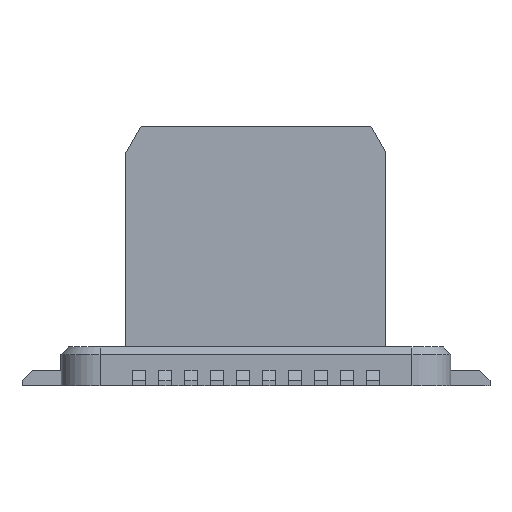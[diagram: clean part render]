
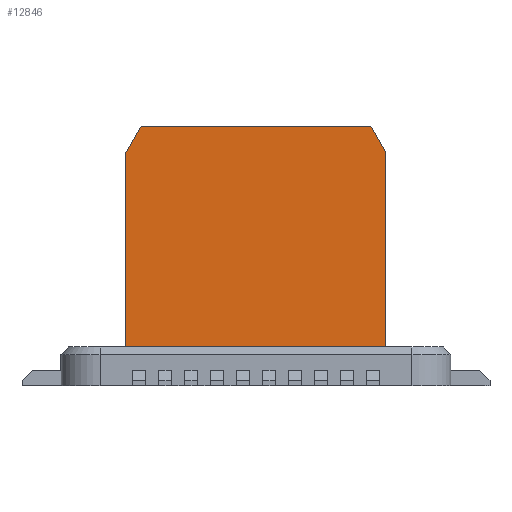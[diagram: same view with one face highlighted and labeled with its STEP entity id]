
A CAD part, front view. The second image highlights one B-rep face of the part: STEP entity #12846.
In plain terms, the highlighted planar face has unit normal (0, -1, 0).
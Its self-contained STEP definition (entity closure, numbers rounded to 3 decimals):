
#473 = CARTESIAN_POINT ( 'NONE',  ( -10., 0., 8. ) ) ;
#486 = VERTEX_POINT ( 'NONE', #13814 ) ;
#972 = LINE ( 'NONE', #4520, #4162 ) ;
#1019 = CARTESIAN_POINT ( 'NONE',  ( -8.845, 0., 10. ) ) ;
#1273 = DIRECTION ( 'NONE',  ( 1., 0., 0. ) ) ;
#1537 = EDGE_CURVE ( 'NONE', #486, #6597, #2746, .T. ) ;
#1863 = DIRECTION ( 'NONE',  ( 0., 1., 0. ) ) ;
#1965 = CARTESIAN_POINT ( 'NONE',  ( 10., 0., 8. ) ) ;
#2138 = CARTESIAN_POINT ( 'NONE',  ( 8.845, 0., -10. ) ) ;
#2301 = VERTEX_POINT ( 'NONE', #473 ) ;
#2563 = EDGE_CURVE ( 'NONE', #10400, #8318, #7851, .T. ) ;
#2746 = LINE ( 'NONE', #7551, #14128 ) ;
#3200 = CARTESIAN_POINT ( 'NONE',  ( 10., 0., 8. ) ) ;
#3270 = LINE ( 'NONE', #6890, #14477 ) ;
#3648 = VECTOR ( 'NONE', #1273, 1000. ) ;
#4141 = DIRECTION ( 'NONE',  ( -1., 0., 0. ) ) ;
#4162 = VECTOR ( 'NONE', #7906, 1000. ) ;
#4227 = ORIENTED_EDGE ( 'NONE', *, *, #2563, .T. ) ;
#4520 = CARTESIAN_POINT ( 'NONE',  ( 10., 0., -10. ) ) ;
#4537 = VECTOR ( 'NONE', #10342, 1000. ) ;
#4558 = EDGE_CURVE ( 'NONE', #12987, #8318, #8458, .T. ) ;
#4650 = CARTESIAN_POINT ( 'NONE',  ( -8.845, 0., -10. ) ) ;
#4998 = VECTOR ( 'NONE', #10265, 1000. ) ;
#5058 = CARTESIAN_POINT ( 'NONE',  ( -10., 0., 10. ) ) ;
#5542 = DIRECTION ( 'NONE',  ( 0.5, 0., -0.866 ) ) ;
#5822 = DIRECTION ( 'NONE',  ( -0.5, 0., -0.866 ) ) ;
#6215 = CARTESIAN_POINT ( 'NONE',  ( 8.845, 0., 10. ) ) ;
#6396 = CARTESIAN_POINT ( 'NONE',  ( 10., 0., -8. ) ) ;
#6524 = ORIENTED_EDGE ( 'NONE', *, *, #1537, .F. ) ;
#6597 = VERTEX_POINT ( 'NONE', #4650 ) ;
#6890 = CARTESIAN_POINT ( 'NONE',  ( -10., 0., -8. ) ) ;
#7551 = CARTESIAN_POINT ( 'NONE',  ( -10., 0., -10. ) ) ;
#7602 = CARTESIAN_POINT ( 'NONE',  ( -10., 0., -8. ) ) ;
#7851 = LINE ( 'NONE', #3200, #12146 ) ;
#7906 = DIRECTION ( 'NONE',  ( 0., 0., -1. ) ) ;
#8132 = LINE ( 'NONE', #2138, #4537 ) ;
#8318 = VERTEX_POINT ( 'NONE', #6215 ) ;
#8458 = LINE ( 'NONE', #5058, #3648 ) ;
#8536 = AXIS2_PLACEMENT_3D ( 'NONE', #9998, #1863, #12514 ) ;
#8732 = FACE_OUTER_BOUND ( 'NONE', #14586, .T. ) ;
#9053 = PLANE ( 'NONE',  #8536 ) ;
#9356 = ORIENTED_EDGE ( 'NONE', *, *, #12699, .T. ) ;
#9587 = ORIENTED_EDGE ( 'NONE', *, *, #4558, .F. ) ;
#9720 = LINE ( 'NONE', #14650, #4998 ) ;
#9998 = CARTESIAN_POINT ( 'NONE',  ( 0., 0., 0. ) ) ;
#10183 = EDGE_CURVE ( 'NONE', #13143, #6597, #3270, .T. ) ;
#10222 = EDGE_CURVE ( 'NONE', #10400, #12427, #972, .T. ) ;
#10265 = DIRECTION ( 'NONE',  ( 0., 0., 1. ) ) ;
#10342 = DIRECTION ( 'NONE',  ( 0.5, 0., 0.866 ) ) ;
#10400 = VERTEX_POINT ( 'NONE', #1965 ) ;
#11298 = VECTOR ( 'NONE', #5822, 1000. ) ;
#12146 = VECTOR ( 'NONE', #15079, 1000. ) ;
#12427 = VERTEX_POINT ( 'NONE', #6396 ) ;
#12514 = DIRECTION ( 'NONE',  ( 0., 0., 1. ) ) ;
#12699 = EDGE_CURVE ( 'NONE', #12987, #2301, #15349, .T. ) ;
#12846 = ADVANCED_FACE ( 'NONE', ( #8732 ), #9053, .F. ) ;
#12987 = VERTEX_POINT ( 'NONE', #13195 ) ;
#13143 = VERTEX_POINT ( 'NONE', #7602 ) ;
#13195 = CARTESIAN_POINT ( 'NONE',  ( -8.845, 0., 10. ) ) ;
#13814 = CARTESIAN_POINT ( 'NONE',  ( 8.845, 0., -10. ) ) ;
#13855 = ORIENTED_EDGE ( 'NONE', *, *, #10183, .T. ) ;
#14128 = VECTOR ( 'NONE', #4141, 1000. ) ;
#14198 = EDGE_CURVE ( 'NONE', #13143, #2301, #9720, .T. ) ;
#14321 = ORIENTED_EDGE ( 'NONE', *, *, #10222, .F. ) ;
#14477 = VECTOR ( 'NONE', #5542, 1000. ) ;
#14586 = EDGE_LOOP ( 'NONE', ( #15495, #13855, #6524, #14939, #14321, #4227, #9587, #9356 ) ) ;
#14650 = CARTESIAN_POINT ( 'NONE',  ( -10., 0., -10. ) ) ;
#14939 = ORIENTED_EDGE ( 'NONE', *, *, #15075, .T. ) ;
#15075 = EDGE_CURVE ( 'NONE', #486, #12427, #8132, .T. ) ;
#15079 = DIRECTION ( 'NONE',  ( -0.5, 0., 0.866 ) ) ;
#15349 = LINE ( 'NONE', #1019, #11298 ) ;
#15495 = ORIENTED_EDGE ( 'NONE', *, *, #14198, .F. ) ;
